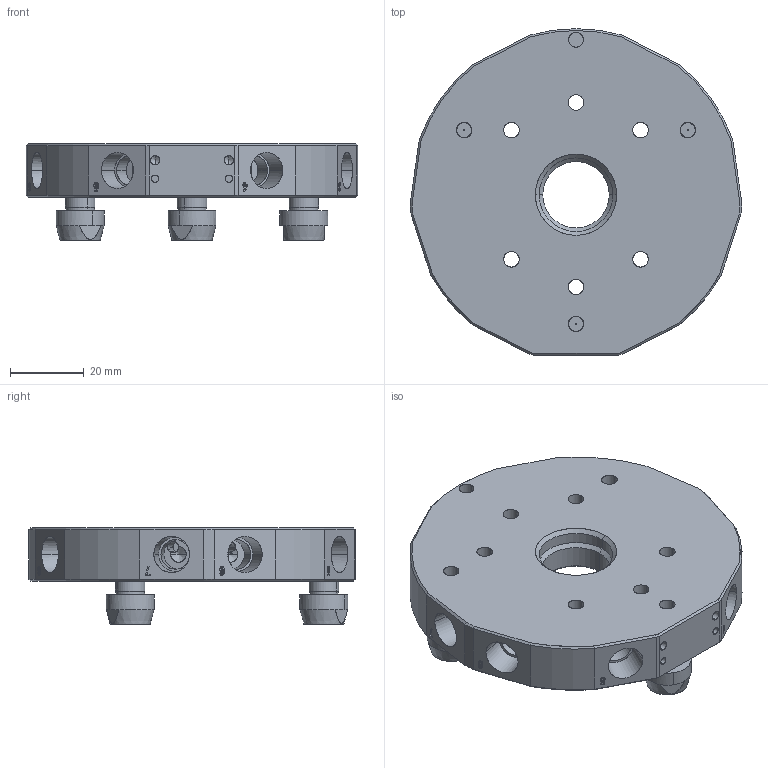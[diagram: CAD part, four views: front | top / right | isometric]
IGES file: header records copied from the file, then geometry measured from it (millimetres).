
Start section: SolidWorks IGES file using analytic representation for surfaces
Global section: file name: \\Ss-share1\share\030eins事業部\技術課\☆eins parts 量産図\3D\ﾁｬｯｸ交換\OM\web用データ\140385.IGS; native system: SolidWorks 2021; preprocessor: SolidWorks 2021; author: STAR050C; date: 230310.172132; units: millimetre
Bounding box: 89.88 x 88.5 x 26.2 mm (x, y, z)
Surface area: 26556.9 mm2 (no closed solid volume)
Topology: 0 solids, 0 shells, 483 faces, 7752 edges, 7724 vertices
Faces by surface type: bspline 264, revolution 219
